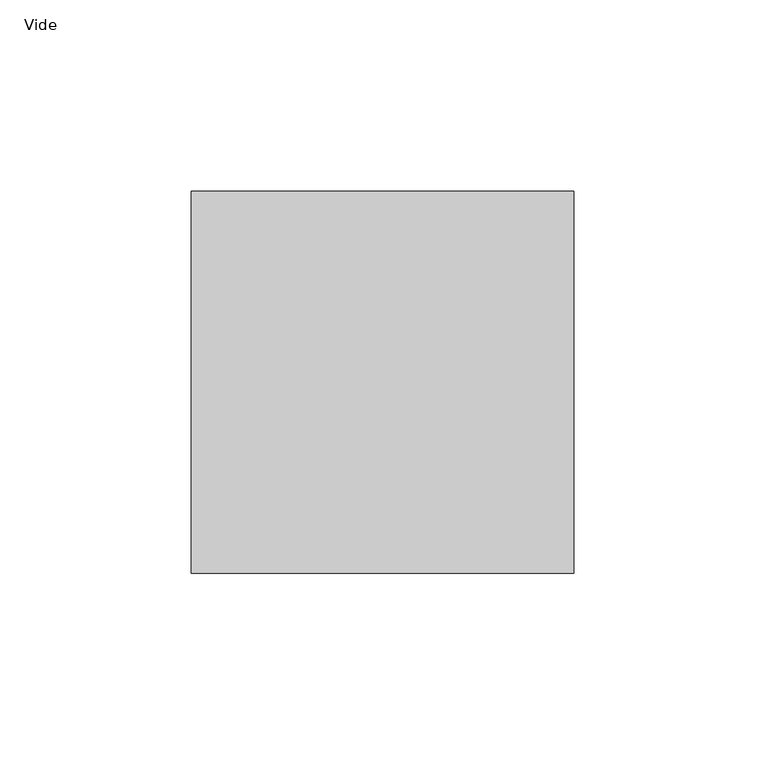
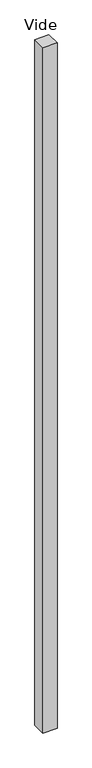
"""IFC4 building model written with IfcOpenShell, lengths in millimetres: plate geometry, Panneau système vide : Vide."""

from ifc_helpers import new_model, si_unit, origin, origin_with_axes, place, context, project, spatial, polyline, outline, extrude, source, transform, mapped, element, save


def vide_3ae48945(model_context):
    return source(origin(), model_context, "Body", "SweptSolid", [
        extrude(outline(polyline([(50.0547347, 50.0), (-50.0547347, 50.0), (-50.0547347, 150.0), (50.0547347, 150.0), (50.0547347, 50.0)])), origin_with_axes(), (0.0, 0.0, 1.0), 5176.3809021),
    ])


if __name__ == "__main__":
    model = new_model("IFC4")
    model_context = context("Model", 3, world=origin())
    ifc_project = project(units=[si_unit("LENGTHUNIT", "METRE", prefix="MILLI")], contexts=[model_context])
    site = spatial("IfcSite", under=ifc_project)
    building = spatial("IfcBuilding", under=site)
    placement = place(None, origin())
    vide_shape = vide_3ae48945(model_context)
    element("IfcPlate", 1, ObjectType="Panneau système vide : Vide", at=placement, inside=building, context=model_context, shape_type="MappedRepresentation", body=[
        mapped(vide_shape, transform((0.0, 0.0, 0.0), x_axis=(1.0, 0.0, 0.0), y_axis=(0.0, 1.0, 0.0), z_axis=(0.0, 0.0, 1.0))),
    ])
    save(model, "model.ifc")
